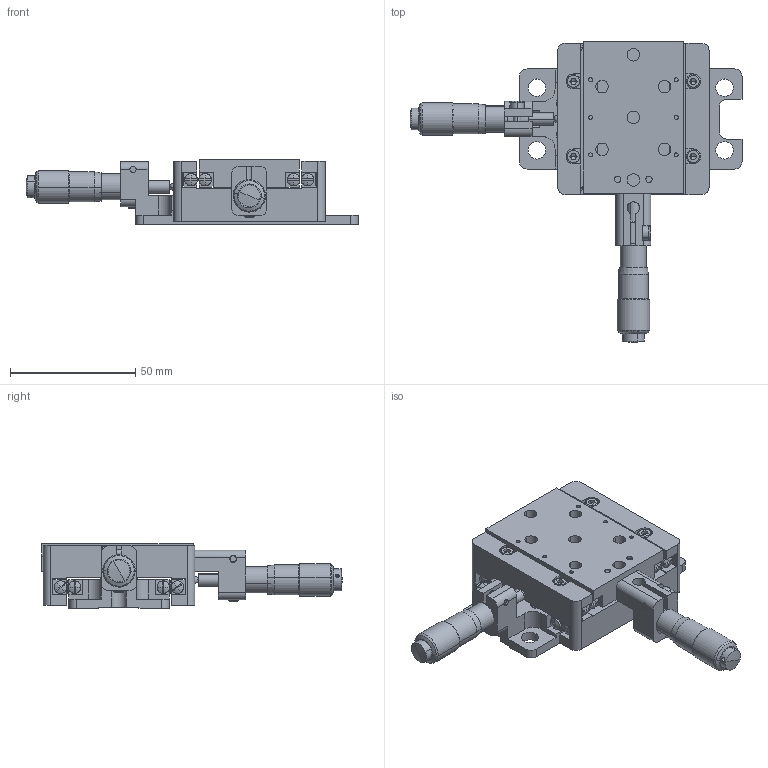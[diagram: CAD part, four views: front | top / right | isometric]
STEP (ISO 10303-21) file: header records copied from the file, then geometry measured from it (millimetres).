
FILE_DESCRIPTION (( 'STEP AP203' ), '1' );
FILE_NAME ('7SWM02113邧粣す痄怢(衵忒倰).STEP', '2019-09-17T07:22:14', ( '' ), ( '' ), 'SwSTEP 2.0', 'SolidWorks 2014', '' );
FILE_SCHEMA (( 'CONFIG_CONTROL_DESIGN' ));
Length unit declared in the file: millimetre
Products named in the file (1): 7SWM02113邧粣す痄怢(衵忒倰)
Bounding box: 132.67 x 120.13 x 25.9 mm (x, y, z)
Surface area: 52641.7 mm2 (no closed solid volume)
Topology: 0 solids, 79 shells, 719 faces, 2422 edges, 1675 vertices
Faces by surface type: plane 353, cylinder 228, sphere 74, cone 44, torus 20
Entity records: 26805 total; most frequent: CARTESIAN_POINT 5335, DIRECTION 4677, ORIENTED_EDGE 3967, EDGE_CURVE 2388, VERTEX_POINT 1667, AXIS2_PLACEMENT_3D 1641, VECTOR 1395, LINE 1395
